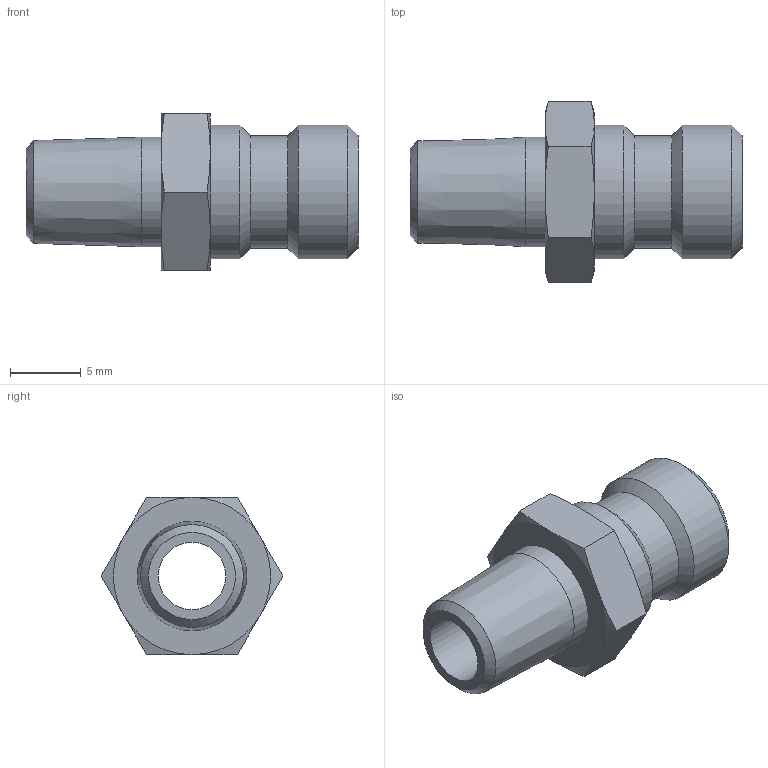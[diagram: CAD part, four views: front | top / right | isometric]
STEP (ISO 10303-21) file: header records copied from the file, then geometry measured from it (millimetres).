
FILE_DESCRIPTION(/* description */ ('STEP AP214'),/* implementation_level */ '2;1');
FILE_NAME(/* name */ 'JP-250',/* time_stamp */ '2024-12-19T08:34:47+01:00',/* author */ ('License CC BY-ND 4.0'),/* organization */ ('CADENAS'),/* preprocessor_version */ 'ST-DEVELOPER v19.3',/* originating_system */ 'PARTsolutions',/* authorisation */ ' ');
FILE_SCHEMA (('AUTOMOTIVE_DESIGN {1 0 10303 214 3 1 1}'));
Length unit declared in the file: inch
Products named in the file (1): JP-250
Bounding box: 23.42 x 12.82 x 11.1 mm (x, y, z)
Volume: 1025.6 mm3; surface area: 1163.6 mm2
Topology: 1 solids, 1 shells, 32 faces, 65 edges, 37 vertices
Faces by surface type: cone 17, plane 10, cylinder 5
Full cylindrical faces by diameter (mm): 4.75 x1, 7.724 x1, 7.937 x1, 9.449 x2
Entity records: 832 total; most frequent: CARTESIAN_POINT 197, DIRECTION 122, ORIENTED_EDGE 110, AXIS2_PLACEMENT_3D 58, EDGE_CURVE 55, EDGE_LOOP 46, FACE_BOUND 46, VERTEX_POINT 37
